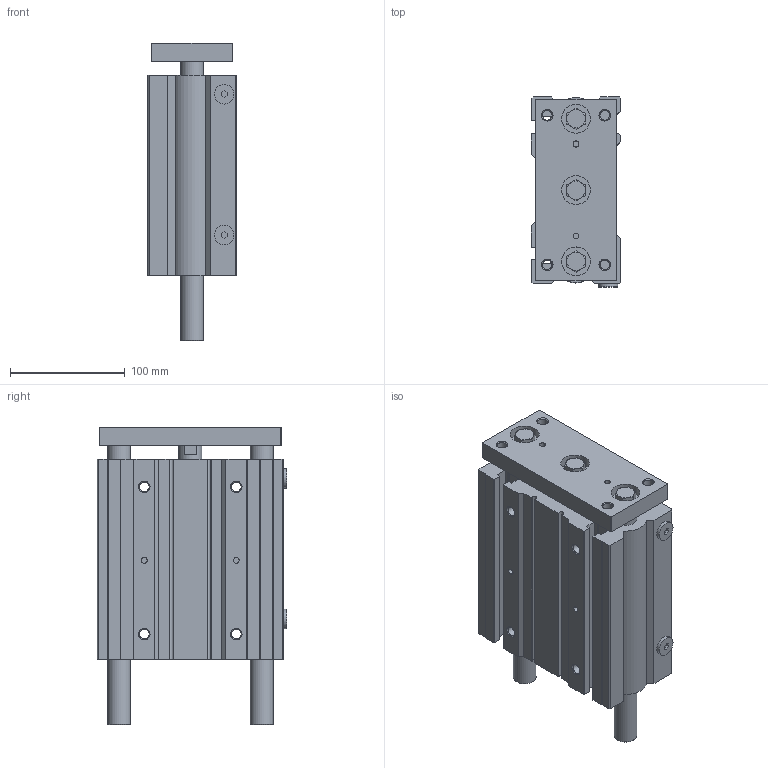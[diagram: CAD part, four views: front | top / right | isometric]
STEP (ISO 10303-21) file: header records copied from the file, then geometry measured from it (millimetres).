
FILE_DESCRIPTION( ( 'STEP AP214' ), '1' );
FILE_NAME( 'C:/Users/emc02044/Desktop/SGL SGM/SGL63X125-S.stp', '2026-07-24T02:59:43', ( 'License CC BY-ND 4.0' ), ( 'CADENAS' ), ' ', 'PARTsolutions', ' ' );
FILE_SCHEMA( ( 'AUTOMOTIVE_DESIGN { 1 0 10303 214 1 1 1 1 }' ) );
Length unit declared in the file: millimetre
Products named in the file (4): SGL63X125X0-S(); _SGL63x125-M(SG:Shaft cylinderL63X125X0-S:with magnet()dummy-0) 0; _SGL63x125-M(-0)-body; _SGL63x125-M(-0)-rod
Assembly tree (3 placements, depth 2):
  SGL63X125X0-S()
    _SGL63x125-M(SG:Shaft cylinderL63X125X0-S:with magnet()dummy-0) 0
    _SGL63x125-M(-0)-body
    _SGL63x125-M(-0)-rod
Bounding box: 78 x 165 x 259 mm (x, y, z)
Volume: 1672379.1 mm3; surface area: 296452.8 mm2
Topology: 2 solids, 4 shells, 349 faces, 851 edges, 548 vertices
Faces by surface type: plane 177, cylinder 114, cone 58
Full cylindrical faces by diameter (mm): 5 x6, 8.376 x12, 8.7 x4, 11.445 x4, 14 x4, 17 x2, 20 x6, 25 x3, 30 x2, 32.5 x2, 63 x3
Entity records: 12834 total; most frequent: CARTESIAN_POINT 1992, DIRECTION 1678, ORIENTED_EDGE 1540, EDGE_CURVE 770, AXIS2_PLACEMENT_3D 645, VERTEX_POINT 536, EDGE_LOOP 476, FACE_OUTER_BOUND 397
